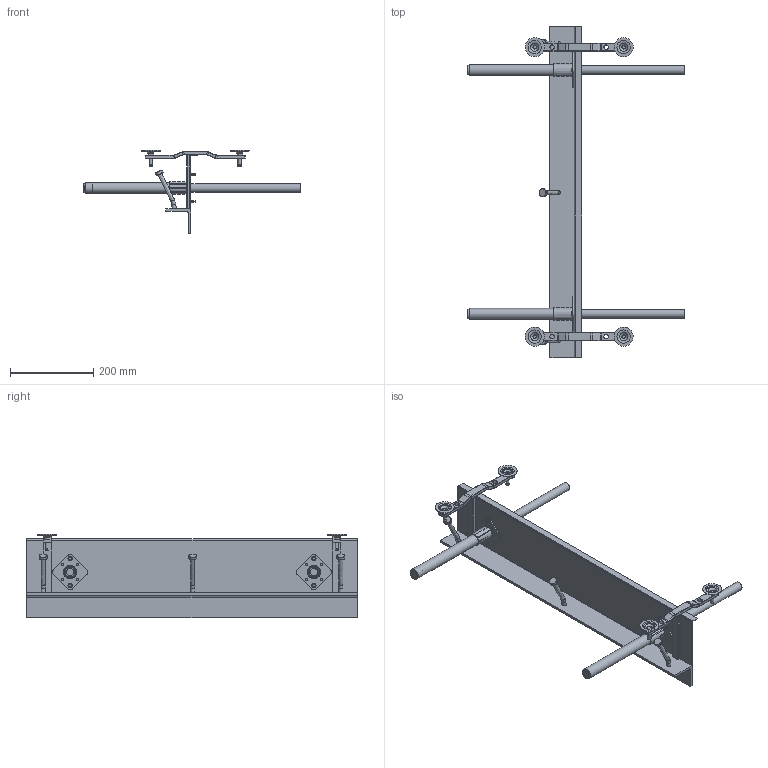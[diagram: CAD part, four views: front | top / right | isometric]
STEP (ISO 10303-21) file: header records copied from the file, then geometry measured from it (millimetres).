
FILE_DESCRIPTION(/* description */ (''),/* implementation_level */ '2;1');
FILE_NAME(/* name */ 'C:\Users\MW\Desktop\Guggenmoos\TAP grün\TAP grün\Herkules TAP grün.stp',/* time_stamp */ '2019-09-12T19:11:48+02:00',/* author */ ('MW'),/* organization */ (''),/* preprocessor_version */ 'ST-DEVELOPER v16.5',/* originating_system */ 'Autodesk Inventor 2017',/* authorisation */ '');
FILE_SCHEMA (('AUTOMOTIVE_DESIGN { 1 0 10303 214 3 1 1 }'));
Length unit declared in the file: millimetre
Products named in the file (11): Herkules ER; Unterbau Herkules ER; Blech Herkules ER; Winkel Herkules ER; Flansch Herkules ER; Stellfuß Herkules ER; Rohr Herkules ER; Stopfen Herkules ER; 334014_8x16cr3; Stange Herkules ER; Verankerung Herkules ER
Assembly tree (23 placements, depth 2):
  Herkules ER
    Unterbau Herkules ER  x2
    Blech Herkules ER
    Winkel Herkules ER
    Verankerung Herkules ER  x3
    Flansch Herkules ER  x2
    Rohr Herkules ER  x2
    Stopfen Herkules ER  x2
    Stange Herkules ER  x2
    Stellfuß Herkules ER  x4
    334014_8x16cr3  x4
Bounding box: 521.7 x 797 x 201.22 mm (x, y, z)
Volume: 1342176.9 mm3; surface area: 681294.1 mm2
Topology: 23 solids, 23 shells, 702 faces, 1560 edges, 925 vertices
Faces by surface type: plane 311, cylinder 226, torus 66, cone 58, sphere 32, bspline 9
Full cylindrical faces by diameter (mm): 3 x4, 4.5 x4, 4.8 x4, 5.5 x8, 6.8 x4, 8 x4, 10.5 x4, 11 x4, 17.3 x2, 19 x3, 20.5 x2, 21.6 x2, 22 x4, 26 x2, 46 x4
Entity records: 8574 total; most frequent: CARTESIAN_POINT 1689, DIRECTION 1489, ORIENTED_EDGE 1220, EDGE_CURVE 610, AXIS2_PLACEMENT_3D 586, EDGE_LOOP 389, VERTEX_POINT 387, LINE 317
